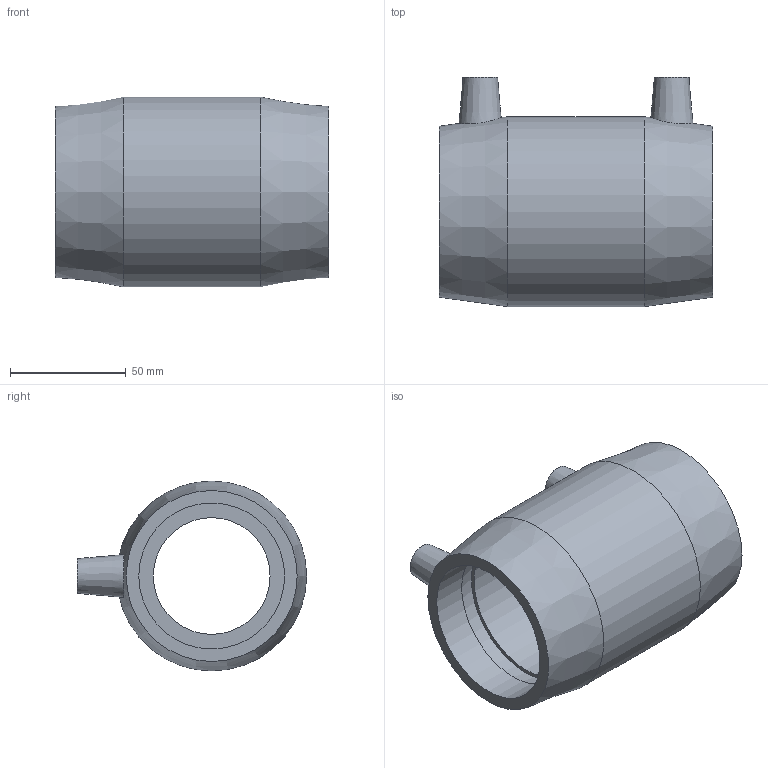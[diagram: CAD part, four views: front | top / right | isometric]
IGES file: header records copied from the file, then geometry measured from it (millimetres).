
Global section: file name: 450104063.ipt; native system: Autodesk Inventor 2015; preprocessor: unknown; author: KIM; date: 20171106.093348; units: millimetre
Bounding box: 118 x 99 x 82 mm (x, y, z)
Volume: 233573.6 mm3; surface area: 61331.2 mm2
Topology: 1 solids, 1 shells, 28 faces, 64 edges, 46 vertices
Faces by surface type: plane 12, revolution 9, cone 4, cylinder 3
Full cylindrical faces by diameter (mm): 4 x2, 82 x1
